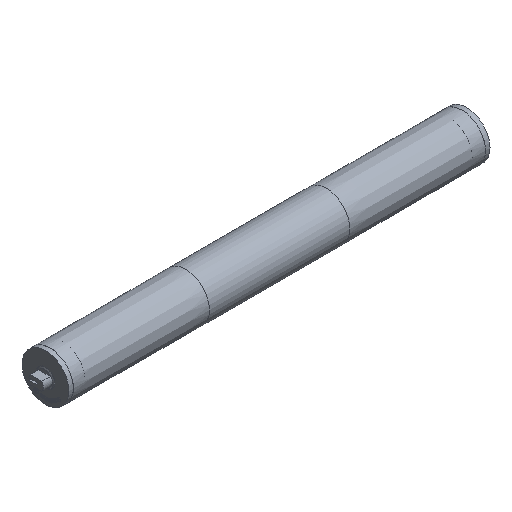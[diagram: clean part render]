
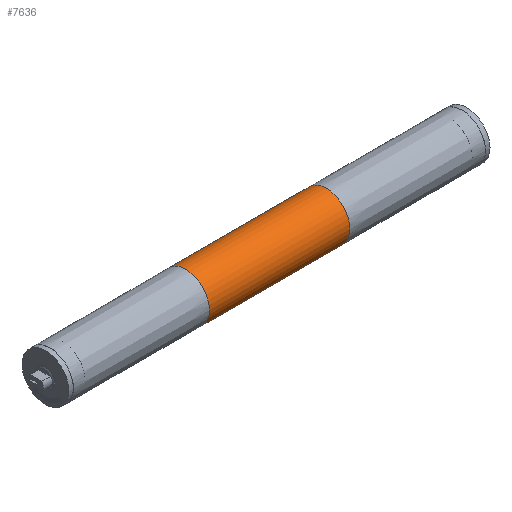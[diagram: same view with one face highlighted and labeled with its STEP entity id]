
A CAD part, isometric view. The second image highlights one B-rep face of the part: STEP entity #7636.
In plain terms, the highlighted cylindrical face has radius 56.75 mm (diameter 113.5 mm), a full revolution.
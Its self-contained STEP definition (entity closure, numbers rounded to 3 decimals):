
#237=FACE_BOUND('',#1445,.T.);
#280=CIRCLE('',#7948,56.75);
#281=CIRCLE('',#7949,56.75);
#966=FACE_OUTER_BOUND('',#1444,.T.);
#1444=EDGE_LOOP('',(#7181));
#1445=EDGE_LOOP('',(#7182));
#3945=VERTEX_POINT('',#13644);
#3946=VERTEX_POINT('',#13646);
#5029=EDGE_CURVE('',#3945,#3945,#280,.T.);
#5030=EDGE_CURVE('',#3946,#3946,#281,.T.);
#7181=ORIENTED_EDGE('',*,*,#5029,.T.);
#7182=ORIENTED_EDGE('',*,*,#5030,.F.);
#7223=CYLINDRICAL_SURFACE('',#7947,56.75);
#7636=ADVANCED_FACE('',(#966,#237),#7223,.T.);
#7947=AXIS2_PLACEMENT_3D('',#13643,#9235,#9236);
#7948=AXIS2_PLACEMENT_3D('',#13645,#9237,#9238);
#7949=AXIS2_PLACEMENT_3D('',#13647,#9239,#9240);
#9235=DIRECTION('center_axis',(1.,0.,0.));
#9236=DIRECTION('ref_axis',(0.,1.,0.));
#9237=DIRECTION('center_axis',(1.,0.,0.));
#9238=DIRECTION('ref_axis',(0.,0.,-1.));
#9239=DIRECTION('center_axis',(1.,0.,0.));
#9240=DIRECTION('ref_axis',(0.,0.,-1.));
#13643=CARTESIAN_POINT('Origin',(0.,0.,0.));
#13644=CARTESIAN_POINT('',(-168.667,56.75,0.));
#13645=CARTESIAN_POINT('Origin',(-168.667,0.,
0.));
#13646=CARTESIAN_POINT('',(168.667,56.75,0.));
#13647=CARTESIAN_POINT('Origin',(168.667,0.,
0.));
